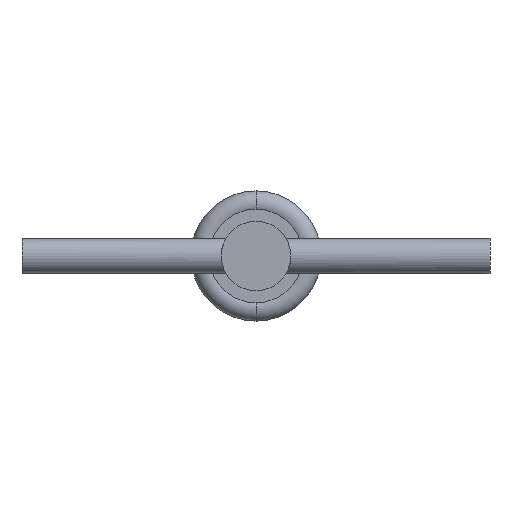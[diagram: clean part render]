
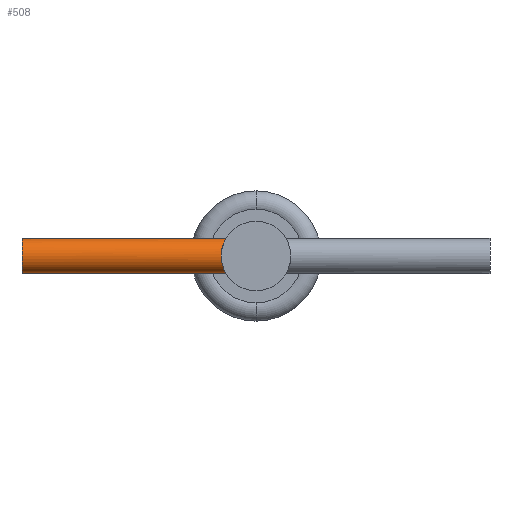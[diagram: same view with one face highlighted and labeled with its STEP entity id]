
A CAD part, left-side view. The second image highlights one B-rep face of the part: STEP entity #508.
In plain terms, the highlighted cylindrical face has radius 1.5 mm (diameter 3 mm), a partial arc.
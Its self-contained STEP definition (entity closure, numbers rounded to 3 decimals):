
#13 = CARTESIAN_POINT ( 'NONE',  ( 3.776, 2.607, 1.421 ) ) ;
#18 = CARTESIAN_POINT ( 'NONE',  ( 4.266, 2.562, 1.5 ) ) ;
#23 = DIRECTION ( 'NONE',  ( 0., 1., 0. ) ) ;
#37 = CARTESIAN_POINT ( 'NONE',  ( 3.342, 2.72, 1.197 ) ) ;
#81 = VECTOR ( 'NONE', #485, 1000. ) ;
#90 = CYLINDRICAL_SURFACE ( 'NONE', #674, 1.5 ) ;
#102 = VECTOR ( 'NONE', #590, 1000. ) ;
#118 = AXIS2_PLACEMENT_3D ( 'NONE', #291, #23, #287 ) ;
#144 = ORIENTED_EDGE ( 'NONE', *, *, #298, .T. ) ;
#202 = ORIENTED_EDGE ( 'NONE', *, *, #234, .F. ) ;
#234 = EDGE_CURVE ( 'NONE', #693, #387, #267, .T. ) ;
#261 = EDGE_CURVE ( 'NONE', #452, #317, #471, .T. ) ;
#266 = LINE ( 'NONE', #606, #102 ) ;
#267 = B_SPLINE_CURVE_WITH_KNOTS ( 'NONE', 3,
 ( #716, #740, #787, #453, #13, #813, #37, #747, #666, #613, #657, #535, #602, #801, #542, #479, #409, #476, #680, #464, #419, #415 ),
 .UNSPECIFIED., .F., .F.,
 ( 4, 2, 2, 2, 2, 2, 2, 2, 2, 2, 4 ),
 ( 0., 0., 0.001, 0.001, 0.002, 0.002, 0.002, 0.003, 0.004, 0.004, 0.005 ),
 .UNSPECIFIED. ) ;
#287 = DIRECTION ( 'NONE',  ( 0., 0., 1. ) ) ;
#290 = ORIENTED_EDGE ( 'NONE', *, *, #261, .F. ) ;
#291 = CARTESIAN_POINT ( 'NONE',  ( 4.266, 20., 0. ) ) ;
#298 = EDGE_CURVE ( 'NONE', #693, #317, #266, .T. ) ;
#317 = VERTEX_POINT ( 'NONE', #598 ) ;
#375 = CARTESIAN_POINT ( 'NONE',  ( 4.266, 20., -1.5 ) ) ;
#382 = DIRECTION ( 'NONE',  ( 0., 1., 0. ) ) ;
#387 = VERTEX_POINT ( 'NONE', #587 ) ;
#409 = CARTESIAN_POINT ( 'NONE',  ( 3.071, 2.824, -0.927 ) ) ;
#415 = CARTESIAN_POINT ( 'NONE',  ( 4.266, 2.562, -1.5 ) ) ;
#419 = CARTESIAN_POINT ( 'NONE',  ( 4.067, 2.562, -1.5 ) ) ;
#445 = ORIENTED_EDGE ( 'NONE', *, *, #622, .F. ) ;
#452 = VERTEX_POINT ( 'NONE', #375 ) ;
#453 = CARTESIAN_POINT ( 'NONE',  ( 3.872, 2.59, 1.451 ) ) ;
#464 = CARTESIAN_POINT ( 'NONE',  ( 3.867, 2.587, -1.459 ) ) ;
#471 = CIRCLE ( 'NONE', #118, 1.5 ) ;
#476 = CARTESIAN_POINT ( 'NONE',  ( 3.344, 2.72, -1.198 ) ) ;
#479 = CARTESIAN_POINT ( 'NONE',  ( 2.96, 2.875, -0.763 ) ) ;
#485 = DIRECTION ( 'NONE',  ( 0., 1., 0. ) ) ;
#508 = ADVANCED_FACE ( 'NONE', ( #764 ), #90, .T. ) ;
#514 = CARTESIAN_POINT ( 'NONE',  ( 4.266, -20., -1.5 ) ) ;
#535 = CARTESIAN_POINT ( 'NONE',  ( 2.776, 2.963, 0.2 ) ) ;
#542 = CARTESIAN_POINT ( 'NONE',  ( 2.807, 2.947, -0.399 ) ) ;
#584 = LINE ( 'NONE', #514, #81 ) ;
#587 = CARTESIAN_POINT ( 'NONE',  ( 4.266, 2.562, -1.5 ) ) ;
#590 = DIRECTION ( 'NONE',  ( 0., 1., 0. ) ) ;
#598 = CARTESIAN_POINT ( 'NONE',  ( 4.266, 20., 1.5 ) ) ;
#602 = CARTESIAN_POINT ( 'NONE',  ( 2.766, 2.968, 0.101 ) ) ;
#606 = CARTESIAN_POINT ( 'NONE',  ( 4.266, -20., 1.5 ) ) ;
#613 = CARTESIAN_POINT ( 'NONE',  ( 2.845, 2.929, 0.491 ) ) ;
#616 = EDGE_LOOP ( 'NONE', ( #445, #202, #144, #290 ) ) ;
#622 = EDGE_CURVE ( 'NONE', #387, #452, #584, .T. ) ;
#627 = CARTESIAN_POINT ( 'NONE',  ( 4.266, -20., 0. ) ) ;
#637 = DIRECTION ( 'NONE',  ( 0., 0., 1. ) ) ;
#657 = CARTESIAN_POINT ( 'NONE',  ( 2.816, 2.944, 0.394 ) ) ;
#666 = CARTESIAN_POINT ( 'NONE',  ( 2.959, 2.875, 0.761 ) ) ;
#674 = AXIS2_PLACEMENT_3D ( 'NONE', #627, #382, #637 ) ;
#680 = CARTESIAN_POINT ( 'NONE',  ( 3.508, 2.666, -1.309 ) ) ;
#693 = VERTEX_POINT ( 'NONE', #18 ) ;
#716 = CARTESIAN_POINT ( 'NONE',  ( 4.266, 2.562, 1.5 ) ) ;
#740 = CARTESIAN_POINT ( 'NONE',  ( 4.165, 2.562, 1.5 ) ) ;
#747 = CARTESIAN_POINT ( 'NONE',  ( 3.07, 2.824, 0.925 ) ) ;
#764 = FACE_OUTER_BOUND ( 'NONE', #616, .T. ) ;
#787 = CARTESIAN_POINT ( 'NONE',  ( 4.066, 2.568, 1.49 ) ) ;
#801 = CARTESIAN_POINT ( 'NONE',  ( 2.766, 2.969, -0.199 ) ) ;
#813 = CARTESIAN_POINT ( 'NONE',  ( 3.505, 2.666, 1.308 ) ) ;
